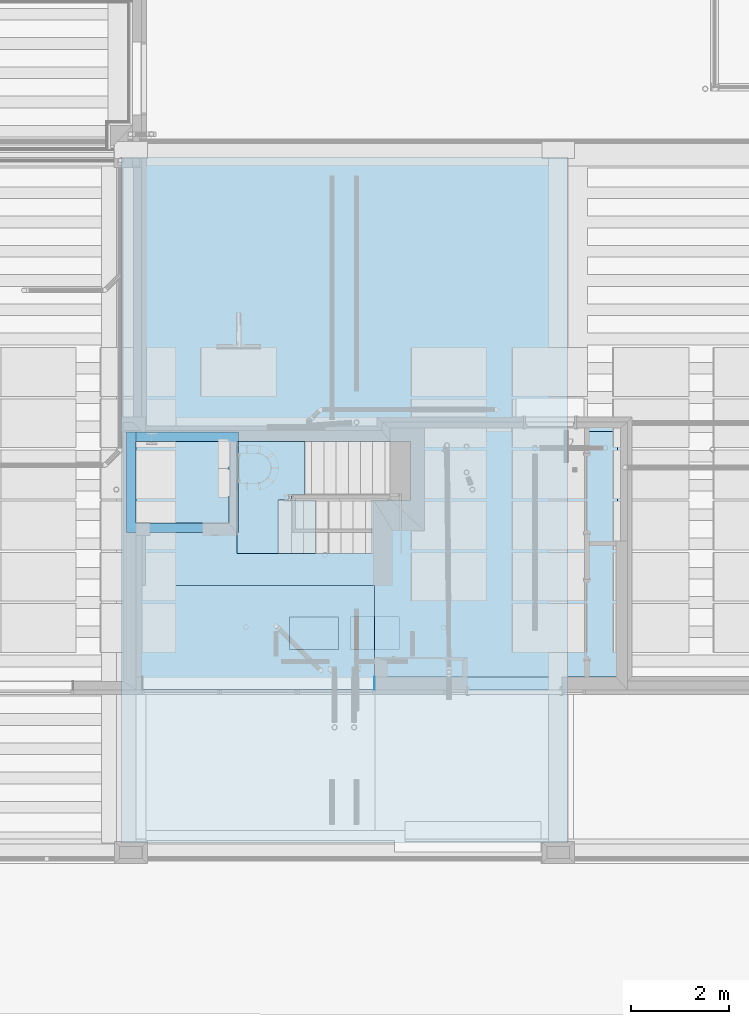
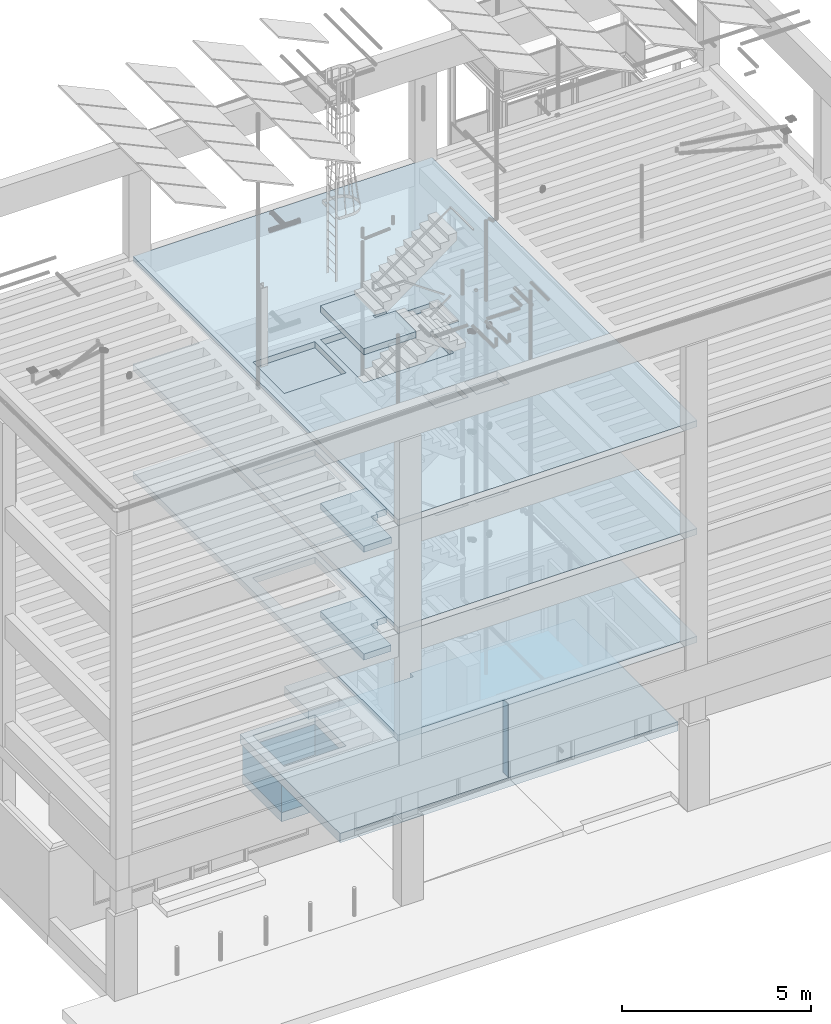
# One storey, part 18 of 108: 12 slabs.
"""IFC2X3 building model written with IfcOpenShell, lengths in metres."""

from ifc_helpers import new_model, entity, si_unit, converted_unit, derived_unit, money_unit, direction, frame, origin_with_axes, place, context, subcontext, project, spatial, faceted_brep, material, type_object, element, save


model = new_model("IFC2X3")

# Units and contexts
model_context = context("Model", 3, precision=1e-05, world=origin_with_axes(), true_north=direction((0.0, 1.0)))
body_context = subcontext(model_context, "Body", "Model", "MODEL_VIEW", scale=1.0)
ifc_project = project(units=[si_unit("LENGTHUNIT", "METRE"), si_unit("AREAUNIT", "SQUARE_METRE"), si_unit("VOLUMEUNIT", "CUBIC_METRE"), si_unit("ABSORBEDDOSEUNIT", "GRAY"), si_unit("AMOUNTOFSUBSTANCEUNIT", "MOLE"), si_unit("DOSEEQUIVALENTUNIT", "SIEVERT"), si_unit("ELECTRICCAPACITANCEUNIT", "FARAD"), si_unit("ELECTRICCHARGEUNIT", "COULOMB"), si_unit("ELECTRICCONDUCTANCEUNIT", "SIEMENS"), si_unit("ELECTRICCURRENTUNIT", "AMPERE"), si_unit("ELECTRICRESISTANCEUNIT", "OHM"), si_unit("ELECTRICVOLTAGEUNIT", "VOLT"), si_unit("ENERGYUNIT", "JOULE"), si_unit("FORCEUNIT", "NEWTON"), si_unit("FREQUENCYUNIT", "HERTZ"), si_unit("ILLUMINANCEUNIT", "LUX"), si_unit("INDUCTANCEUNIT", "HENRY"), si_unit("LUMINOUSFLUXUNIT", "LUMEN"), si_unit("LUMINOUSINTENSITYUNIT", "CANDELA"), si_unit("MAGNETICFLUXDENSITYUNIT", "TESLA"), si_unit("MAGNETICFLUXUNIT", "WEBER"), si_unit("MASSUNIT", "GRAM"), converted_unit("PLANEANGLEUNIT", "degree", entity("IfcReal", 0.0174532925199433), si_unit("PLANEANGLEUNIT", "RADIAN"), dimensions=[0, 0, 0, 0, 0, 0, 0]), si_unit("POWERUNIT", "WATT"), si_unit("PRESSUREUNIT", "PASCAL"), si_unit("RADIOACTIVITYUNIT", "BECQUEREL"), si_unit("SOLIDANGLEUNIT", "STERADIAN"), si_unit("THERMODYNAMICTEMPERATUREUNIT", "KELVIN"), si_unit("TIMEUNIT", "SECOND"), derived_unit("ACCELERATIONUNIT", [(si_unit("LENGTHUNIT", "METRE"), 1), (si_unit("TIMEUNIT", "SECOND"), -2)]), derived_unit("ANGULARVELOCITYUNIT", [(converted_unit("PLANEANGLEUNIT", "degree", entity("IfcReal", 0.0174532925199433), si_unit("PLANEANGLEUNIT", "RADIAN"), dimensions=[0, 0, 0, 0, 0, 0, 0]), 1), (si_unit("TIMEUNIT", "SECOND"), -1)]), derived_unit("CURVATUREUNIT", [(converted_unit("PLANEANGLEUNIT", "degree", entity("IfcReal", 0.0174532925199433), si_unit("PLANEANGLEUNIT", "RADIAN"), dimensions=[0, 0, 0, 0, 0, 0, 0]), 1), (si_unit("LENGTHUNIT", "METRE"), -1)]), derived_unit("DYNAMICVISCOSITYUNIT", [(si_unit("PRESSUREUNIT", "PASCAL"), 1), (si_unit("TIMEUNIT", "SECOND"), 1)]), derived_unit("HEATFLUXDENSITYUNIT", [(si_unit("POWERUNIT", "WATT"), 1), (si_unit("LENGTHUNIT", "METRE"), -2)]), derived_unit("HEATINGVALUEUNIT", [(si_unit("ENERGYUNIT", "JOULE"), 1), (si_unit("MASSUNIT", "GRAM"), -1)]), derived_unit("INTEGERCOUNTRATEUNIT", [(si_unit("TIMEUNIT", "SECOND"), -1)]), derived_unit("IONCONCENTRATIONUNIT", [(si_unit("MASSUNIT", "GRAM"), 1), (si_unit("VOLUMEUNIT", "CUBIC_METRE"), -1)]), derived_unit("ISOTHERMALMOISTURECAPACITYUNIT", [(si_unit("VOLUMEUNIT", "CUBIC_METRE"), 1), (si_unit("MASSUNIT", "GRAM"), -1)]), derived_unit("KINEMATICVISCOSITYUNIT", [(si_unit("AREAUNIT", "SQUARE_METRE"), 1), (si_unit("TIMEUNIT", "SECOND"), -1)]), derived_unit("LINEARFORCEUNIT", [(si_unit("FORCEUNIT", "NEWTON"), 1), (si_unit("LENGTHUNIT", "METRE"), -1)]), derived_unit("LINEARMOMENTUNIT", [(si_unit("FORCEUNIT", "NEWTON"), 1), (si_unit("LENGTHUNIT", "METRE"), -1)]), derived_unit("LINEARSTIFFNESSUNIT", [(si_unit("FORCEUNIT", "NEWTON"), 1), (si_unit("LENGTHUNIT", "METRE"), -1)]), derived_unit("LINEARVELOCITYUNIT", [(si_unit("LENGTHUNIT", "METRE"), 1), (si_unit("TIMEUNIT", "SECOND"), -1)]), derived_unit("LUMINOUSINTENSITYDISTRIBUTIONUNIT", [(si_unit("LUMINOUSINTENSITYUNIT", "CANDELA"), 1), (si_unit("LUMINOUSFLUXUNIT", "LUMEN"), -1)]), derived_unit("MASSDENSITYUNIT", [(si_unit("MASSUNIT", "GRAM"), 1), (si_unit("VOLUMEUNIT", "CUBIC_METRE"), -1)]), derived_unit("MASSFLOWRATEUNIT", [(si_unit("MASSUNIT", "GRAM"), 1), (si_unit("TIMEUNIT", "SECOND"), -1)]), derived_unit("MASSPERLENGTHUNIT", [(si_unit("MASSUNIT", "GRAM"), 1), (si_unit("LENGTHUNIT", "METRE"), -1)]), derived_unit("MODULUSOFELASTICITYUNIT", [(si_unit("FORCEUNIT", "NEWTON"), 1), (si_unit("AREAUNIT", "SQUARE_METRE"), -1)]), derived_unit("MODULUSOFLINEARSUBGRADEREACTIONUNIT", [(si_unit("FORCEUNIT", "NEWTON"), 1), (si_unit("LENGTHUNIT", "METRE"), -2)]), derived_unit("MODULUSOFROTATIONALSUBGRADEREACTIONUNIT", [(si_unit("FORCEUNIT", "NEWTON"), 1), (si_unit("LENGTHUNIT", "METRE"), 1)]), derived_unit("MODULUSOFSUBGRADEREACTIONUNIT", [(si_unit("FORCEUNIT", "NEWTON"), 1), (si_unit("VOLUMEUNIT", "CUBIC_METRE"), -1)]), derived_unit("MOISTUREDIFFUSIVITYUNIT", [(si_unit("VOLUMEUNIT", "CUBIC_METRE"), 1), (si_unit("TIMEUNIT", "SECOND"), -1)]), derived_unit("MOLECULARWEIGHTUNIT", [(si_unit("MASSUNIT", "GRAM"), 1), (si_unit("AMOUNTOFSUBSTANCEUNIT", "MOLE"), -1)]), derived_unit("PLANARFORCEUNIT", [(si_unit("FORCEUNIT", "NEWTON"), 1), (si_unit("LENGTHUNIT", "METRE"), -2)]), derived_unit("ROTATIONALFREQUENCYUNIT", [(si_unit("TIMEUNIT", "SECOND"), -1)]), derived_unit("ROTATIONALMASSUNIT", [(si_unit("MASSUNIT", "GRAM"), 1), (si_unit("LENGTHUNIT", "METRE"), 2)]), derived_unit("ROTATIONALSTIFFNESSUNIT", [(si_unit("FORCEUNIT", "NEWTON"), 1), (si_unit("LENGTHUNIT", "METRE"), 1), (converted_unit("PLANEANGLEUNIT", "degree", entity("IfcReal", 0.0174532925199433), si_unit("PLANEANGLEUNIT", "RADIAN"), dimensions=[0, 0, 0, 0, 0, 0, 0]), -1)]), derived_unit("SECTIONAREAINTEGRALUNIT", [(si_unit("LENGTHUNIT", "METRE"), 5)]), derived_unit("SECTIONMODULUSUNIT", [(si_unit("LENGTHUNIT", "METRE"), 3)]), derived_unit("SHEARMODULUSUNIT", [(si_unit("FORCEUNIT", "NEWTON"), 1), (si_unit("AREAUNIT", "SQUARE_METRE"), -1)]), derived_unit("SOUNDPOWERUNIT", [(si_unit("ENERGYUNIT", "JOULE"), 1), (si_unit("TIMEUNIT", "SECOND"), -1)]), derived_unit("SPECIFICHEATCAPACITYUNIT", [(si_unit("FORCEUNIT", "NEWTON"), 1), (si_unit("MASSUNIT", "GRAM"), -1), (si_unit("THERMODYNAMICTEMPERATUREUNIT", "KELVIN"), -1)]), derived_unit("TEMPERATUREGRADIENTUNIT", [(si_unit("THERMODYNAMICTEMPERATUREUNIT", "KELVIN"), 1), (si_unit("LENGTHUNIT", "METRE"), -1)]), derived_unit("THERMALADMITTANCEUNIT", [(si_unit("POWERUNIT", "WATT"), 1), (si_unit("AREAUNIT", "SQUARE_METRE"), -1), (si_unit("THERMODYNAMICTEMPERATUREUNIT", "KELVIN"), -1)]), derived_unit("THERMALCONDUCTANCEUNIT", [(si_unit("POWERUNIT", "WATT"), 1), (si_unit("LENGTHUNIT", "METRE"), -1), (si_unit("THERMODYNAMICTEMPERATUREUNIT", "KELVIN"), -1)]), derived_unit("THERMALEXPANSIONCOEFFICIENTUNIT", [(si_unit("THERMODYNAMICTEMPERATUREUNIT", "KELVIN"), -1)]), derived_unit("THERMALRESISTANCEUNIT", [(si_unit("AREAUNIT", "SQUARE_METRE"), 1), (si_unit("POWERUNIT", "WATT"), -1)]), derived_unit("THERMALTRANSMITTANCEUNIT", [(si_unit("POWERUNIT", "WATT"), 1), (si_unit("AREAUNIT", "SQUARE_METRE"), -1), (si_unit("THERMODYNAMICTEMPERATUREUNIT", "KELVIN"), -1)]), derived_unit("TORQUEUNIT", [(si_unit("FORCEUNIT", "NEWTON"), 1), (si_unit("LENGTHUNIT", "METRE"), 1)]), derived_unit("VAPORPERMEABILITYUNIT", [(si_unit("MASSUNIT", "GRAM"), 1), (si_unit("TIMEUNIT", "SECOND"), -1)]), derived_unit("VOLUMETRICFLOWRATEUNIT", [(si_unit("VOLUMEUNIT", "CUBIC_METRE"), 1), (si_unit("TIMEUNIT", "SECOND"), -1)]), derived_unit("WARPINGCONSTANTUNIT", [(si_unit("LENGTHUNIT", "METRE"), 6)]), derived_unit("WARPINGMOMENTUNIT", [(si_unit("FORCEUNIT", "NEWTON"), 1), (si_unit("LENGTHUNIT", "METRE"), 2)]), money_unit("GBP")], contexts=[model_context])

# Site, building, storey
site_placement = place(None, origin_with_axes())
site = spatial("IfcSite", under=ifc_project, at=site_placement, Name="Site", CompositionType="ELEMENT")
building_placement = place(site_placement, origin_with_axes())
building = spatial("IfcBuilding", under=site, at=building_placement, Name="Building01", CompositionType="ELEMENT")
storey_placement = place(building_placement, origin_with_axes())
storey = spatial("IfcBuildingStorey", under=building, at=storey_placement, Name="GF", CompositionType="ELEMENT", Elevation=0.0)

# Slabs
ifc_material = material(Name="A_BSUK_Slabs")
slab_type = type_object("IfcSlabType", Name="A-FloorsSlabs A_BSUK_Slabs", PredefinedType="FLOOR")
placement = place(storey_placement, origin_with_axes())
element("IfcSlab", 1, at=placement, inside=storey, type_object=slab_type, material=ifc_material, Name="A-FloorsSlabs A_BSUK_Slabs", ObjectType="CompoundSlabLeaf", context=body_context, shape_type="Brep", body=[
    faceted_brep([(14.124099, 3.559352, 0.015), (14.109099, 3.559352, 0.015), (14.109099, 3.823962, 0.015), (14.124099, 3.823962, 0.015), (14.124099, 3.559262, 2.385), (14.109099, 3.559262, 2.385), (14.124099, 3.823838, 2.385), (14.109099, 3.823838, 2.385)], [[[0, 1, 2, 3]], [[4, 5, 1, 0]], [[6, 7, 5, 4]], [[3, 2, 7, 6]], [[1, 5, 7, 2]], [[3, 6, 4, 0]]]),
])
element("IfcSlab", 2, at=placement, inside=storey, type_object=slab_type, material=ifc_material, Name="A-FloorsSlabs A_BSUK_Slabs", ObjectType="CompoundSlabLeaf", context=body_context, shape_type="Brep", body=[
    faceted_brep([(8.965099, 8.87141, 0.0), (8.965099, 3.559165, 0.0), (19.302967, 3.559165, 0.0), (19.302967, 9.053145, 0.0), (14.27235, 9.053145, 0.0), (14.27235, 8.87141, 0.0), (9.229999, 8.64741, 0.0), (11.129999, 8.64741, 0.0), (11.129999, 6.989761, 0.0), (9.229999, 6.989761, 0.0), (14.27235, 8.87141, -0.3), (14.27235, 9.053145, -0.3), (19.302967, 9.053145, -0.3), (19.302967, 3.559165, -0.3), (8.965099, 3.559165, -0.3), (8.965099, 8.87141, -0.3), (9.229999, 8.64741, -0.3), (9.229999, 6.989761, -0.3), (11.129999, 6.989761, -0.3), (11.129999, 8.64741, -0.3)], [[[0, 1, 2, 3, 4, 5], [6, 7, 8, 9]], [[10, 11, 12, 13, 14, 15], [16, 17, 18, 19]], [[15, 0, 5, 10]], [[14, 1, 0, 15]], [[13, 2, 1, 14]], [[12, 3, 2, 13]], [[11, 4, 3, 12]], [[10, 5, 4, 11]], [[16, 19, 7, 6]], [[17, 16, 6, 9]], [[18, 17, 9, 8]], [[19, 18, 8, 7]]]),
])
element("IfcSlab", 3, at=placement, inside=storey, type_object=slab_type, material=ifc_material, Name="A-FloorsSlabs A_BSUK_Slabs", ObjectType="CompoundSlabLeaf", context=body_context, shape_type="Brep", body=[
    faceted_brep([(9.23, 8.64741, -1.3), (9.23, 8.64741, -0.3), (9.23, 8.84741, -0.3), (9.23, 8.84741, -1.3), (11.13, 8.64741, -1.3), (11.13, 8.64741, -0.3), (11.13, 6.98, -1.3), (11.13, 6.98, -0.3), (11.33, 6.98, -1.3), (11.33, 6.98, -0.3), (11.33, 8.84741, -1.3), (11.33, 8.84741, -0.3), (11.13, 8.84741, -1.3), (11.13, 8.84741, -0.3)], [[[0, 1, 2, 3]], [[4, 5, 1, 0]], [[6, 7, 5, 4]], [[8, 9, 7, 6]], [[10, 11, 9, 8]], [[12, 13, 11, 10]], [[3, 2, 13, 12]], [[1, 5, 7, 9, 11, 13, 2]], [[3, 12, 10, 8, 6, 4, 0]]]),
])
element("IfcSlab", 4, at=placement, inside=storey, type_object=slab_type, material=ifc_material, Name="A-FloorsSlabs A_BSUK_Slabs", ObjectType="CompoundSlabLeaf", context=body_context, shape_type="Brep", body=[
    faceted_brep([(11.33, 6.98, -1.3), (11.33, 6.98, -0.3), (11.33, 6.78, -0.3), (11.33, 6.78, -1.3), (9.23, 6.98, -1.3), (9.23, 6.98, -0.3), (9.23, 8.84741, -1.3), (9.23, 8.84741, -0.3), (9.03, 8.84741, -1.3), (9.03, 8.84741, -0.3), (9.03, 6.78, -1.3), (9.03, 6.78, -0.3), (9.23, 6.78, -1.3), (9.23, 6.78, -0.3)], [[[0, 1, 2, 3]], [[4, 5, 1, 0]], [[6, 7, 5, 4]], [[8, 9, 7, 6]], [[10, 11, 9, 8]], [[12, 13, 11, 10]], [[3, 2, 13, 12]], [[1, 5, 7, 9, 11, 13, 2]], [[3, 12, 10, 8, 6, 4, 0]]]),
])
element("IfcSlab", 5, at=placement, inside=storey, type_object=slab_type, material=ifc_material, Name="A-FloorsSlabs A_BSUK_Slabs", ObjectType="CompoundSlabLeaf", context=body_context, shape_type="Brep", body=[
    faceted_brep([(9.03, 8.84741, -1.6), (9.03, 8.84741, -1.3), (11.33, 8.84741, -1.3), (11.33, 8.84741, -1.6), (9.03, 6.78, -1.6), (9.03, 6.78, -1.3), (11.33, 6.78, -1.6), (11.33, 6.78, -1.3)], [[[0, 1, 2, 3]], [[4, 5, 1, 0]], [[6, 7, 5, 4]], [[3, 2, 7, 6]], [[1, 5, 7, 2]], [[3, 6, 4, 0]]]),
])
element("IfcSlab", 6, at=placement, inside=storey, type_object=slab_type, material=ifc_material, Name="A-FloorsSlabs A_BSUK_Slabs", ObjectType="CompoundSlabLeaf", context=body_context, shape_type="Brep", body=[
    faceted_brep([(14.535, 8.65, 2.3), (14.535, 8.65, 2.6), (14.535, 8.852854, 2.6), (14.535, 8.852854, 2.3), (14.8, 8.65, 2.3), (14.8, 8.65, 2.6), (14.8, 7.55, 2.3), (14.8, 7.55, 2.6), (12.4238, 7.55, 2.3), (12.4238, 7.55, 2.6), (12.42395, 6.35, 2.3), (12.42395, 6.35, 2.6), (11.3, 6.35, 2.3), (11.3, 6.35, 2.6), (11.3, 6.98, 2.3), (11.3, 6.98, 2.6), (9.23, 6.98, 2.3), (9.23, 6.98, 2.6), (9.23, 5.69305, 2.3), (9.23, 5.69305, 2.6), (14.121434, 5.69305, 2.3), (14.121434, 5.69305, 2.6), (14.121434, 3.823962, 2.3), (14.121434, 3.823962, 2.6), (19.102776, 3.823962, 2.3), (19.102776, 3.823962, 2.6), (19.102776, 6.610938, 2.3), (19.102776, 6.610938, 2.6), (19.102776, 8.852854, 2.3), (19.102776, 8.852854, 2.6)], [[[0, 1, 2, 3]], [[4, 5, 1, 0]], [[6, 7, 5, 4]], [[8, 9, 7, 6]], [[10, 11, 9, 8]], [[12, 13, 11, 10]], [[14, 15, 13, 12]], [[16, 17, 15, 14]], [[18, 19, 17, 16]], [[20, 21, 19, 18]], [[22, 23, 21, 20]], [[24, 25, 23, 22]], [[26, 27, 25, 24]], [[28, 29, 27, 26]], [[3, 2, 29, 28]], [[1, 5, 7, 9, 11, 13, 15, 17, 19, 21, 23, 25, 27, 29, 2]], [[3, 28, 26, 24, 22, 20, 18, 16, 14, 12, 10, 8, 6, 4, 0]]]),
])
element("IfcSlab", 7, at=placement, inside=storey, type_object=slab_type, material=ifc_material, Name="A-FloorsSlabs A_BSUK_Slabs", ObjectType="CompoundSlabLeaf", context=body_context, shape_type="Brep", body=[
    faceted_brep([(8.925, 14.48, 8.59), (8.925, 0.42, 8.59), (18.085, 0.42, 8.59), (18.085, 14.48, 8.59), (13.375, 5.05385, 8.59), (13.375, 4.389428, 8.59), (12.375, 4.389428, 8.59), (12.375, 5.05385, 8.59), (14.059316, 6.35, 8.59), (11.3, 6.35, 8.59), (11.3, 8.65, 8.59), (14.859584, 8.65, 8.59), (14.859584, 7.454282, 8.59), (14.059316, 7.454282, 8.59), (14.625, 5.05385, 8.59), (14.625, 4.389428, 8.59), (13.625, 4.389428, 8.59), (13.625, 5.05385, 8.59), (11.13, 8.65, 8.59), (11.13, 6.98, 8.59), (9.23, 6.98, 8.59), (9.23, 8.65, 8.59), (18.085, 14.48, 8.39), (18.085, 0.42, 8.39), (8.925, 0.42, 8.39), (8.925, 14.48, 8.39), (14.625, 5.05385, 8.39), (13.625, 5.05385, 8.39), (13.625, 4.389428, 8.39), (14.625, 4.389428, 8.39), (13.375, 5.05385, 8.39), (12.375, 5.05385, 8.39), (12.375, 4.389428, 8.39), (13.375, 4.389428, 8.39), (14.059316, 6.35, 8.39), (14.059316, 7.454282, 8.39), (14.859584, 7.454282, 8.39), (14.859584, 8.65, 8.39), (11.3, 8.65, 8.39), (11.3, 6.35, 8.39), (11.13, 8.65, 8.39), (9.23, 8.65, 8.39), (9.23, 6.98, 8.39), (11.13, 6.98, 8.39)], [[[0, 1, 2, 3], [4, 5, 6, 7], [8, 9, 10, 11, 12, 13], [14, 15, 16, 17], [18, 19, 20, 21]], [[22, 23, 24, 25], [26, 27, 28, 29], [30, 31, 32, 33], [34, 35, 36, 37, 38, 39], [40, 41, 42, 43]], [[35, 13, 12, 36]], [[25, 0, 3, 22]], [[24, 1, 0, 25]], [[23, 2, 1, 24]], [[22, 3, 2, 23]], [[17, 27, 26, 14]], [[14, 26, 29, 15]], [[15, 29, 28, 16]], [[16, 28, 27, 17]], [[7, 31, 30, 4]], [[4, 30, 33, 5]], [[5, 33, 32, 6]], [[6, 32, 31, 7]], [[10, 38, 37, 11]], [[11, 37, 36, 12]], [[9, 39, 38, 10]], [[8, 34, 39, 9]], [[13, 35, 34, 8]], [[21, 41, 40, 18]], [[18, 40, 43, 19]], [[19, 43, 42, 20]], [[20, 42, 41, 21]]]),
])
element("IfcSlab", 8, at=placement, inside=storey, type_object=slab_type, material=ifc_material, Name="A-FloorsSlabs A_BSUK_Slabs", ObjectType="CompoundSlabLeaf", context=body_context, shape_type="Brep", body=[
    faceted_brep([(8.925, 14.48, 12.08), (8.925, 0.42, 12.08), (18.085, 0.42, 12.08), (18.085, 14.48, 12.08), (13.375, 5.05385, 12.08), (13.375, 4.389428, 12.08), (12.375, 4.389428, 12.08), (12.375, 5.05385, 12.08), (14.059317, 6.35, 12.08), (11.3, 6.35, 12.08), (11.3, 8.65, 12.08), (14.897097, 8.65, 12.08), (14.897097, 7.55, 12.08), (14.059317, 7.55, 12.08), (14.625, 5.05385, 12.08), (14.625, 4.389428, 12.08), (13.625, 4.389428, 12.08), (13.625, 5.05385, 12.08), (11.13, 8.65, 12.08), (11.13, 6.98, 12.08), (9.23, 6.98, 12.08), (9.23, 8.65, 12.08), (18.085, 14.48, 11.88), (18.085, 0.42, 11.88), (8.925, 0.42, 11.88), (8.925, 14.48, 11.88), (14.625, 5.05385, 11.88), (13.625, 5.05385, 11.88), (13.625, 4.389428, 11.88), (14.625, 4.389428, 11.88), (13.375, 5.05385, 11.88), (12.375, 5.05385, 11.88), (12.375, 4.389428, 11.88), (13.375, 4.389428, 11.88), (14.059317, 6.35, 11.88), (14.059317, 7.55, 11.88), (14.897097, 7.55, 11.88), (14.897097, 8.65, 11.88), (11.3, 8.65, 11.88), (11.3, 6.35, 11.88), (11.13, 8.65, 11.88), (9.23, 8.65, 11.88), (9.23, 6.98, 11.88), (11.13, 6.98, 11.88)], [[[0, 1, 2, 3], [4, 5, 6, 7], [8, 9, 10, 11, 12, 13], [14, 15, 16, 17], [18, 19, 20, 21]], [[22, 23, 24, 25], [26, 27, 28, 29], [30, 31, 32, 33], [34, 35, 36, 37, 38, 39], [40, 41, 42, 43]], [[35, 13, 12, 36]], [[25, 0, 3, 22]], [[24, 1, 0, 25]], [[23, 2, 1, 24]], [[22, 3, 2, 23]], [[17, 27, 26, 14]], [[14, 26, 29, 15]], [[15, 29, 28, 16]], [[16, 28, 27, 17]], [[7, 31, 30, 4]], [[4, 30, 33, 5]], [[5, 33, 32, 6]], [[6, 32, 31, 7]], [[10, 38, 37, 11]], [[11, 37, 36, 12]], [[9, 39, 38, 10]], [[8, 34, 39, 9]], [[13, 35, 34, 8]], [[21, 41, 40, 18]], [[18, 40, 43, 19]], [[19, 43, 42, 20]], [[20, 42, 41, 21]]]),
])
element("IfcSlab", 9, at=placement, inside=storey, type_object=slab_type, material=ifc_material, Name="A-FloorsSlabs A_BSUK_Slabs", ObjectType="CompoundSlabLeaf", context=body_context, shape_type="Brep", body=[
    faceted_brep([(8.925, 14.48, 5.1), (8.925, 0.42, 5.1), (18.085, 0.42, 5.1), (18.085, 14.48, 5.1), (14.625, 5.05385, 5.1), (14.625, 4.389428, 5.1), (13.625, 4.389428, 5.1), (13.625, 5.05385, 5.1), (14.059317, 6.35, 5.1), (11.3, 6.35, 5.1), (11.3, 8.65, 5.1), (14.859584, 8.65, 5.1), (14.859584, 7.454191, 5.1), (14.059317, 7.454191, 5.1), (11.13, 8.65, 5.1), (11.13, 6.98, 5.1), (9.23, 6.98, 5.1), (9.23, 8.65, 5.1), (18.085, 14.48, 4.9), (18.085, 0.42, 4.9), (8.925, 0.42, 4.9), (8.925, 14.48, 4.9), (14.625, 5.05385, 4.9), (13.625, 5.05385, 4.9), (13.625, 4.389428, 4.9), (14.625, 4.389428, 4.9), (14.059317, 6.35, 4.9), (14.059317, 7.454191, 4.9), (14.859584, 7.454191, 4.9), (14.859584, 8.65, 4.9), (11.3, 8.65, 4.9), (11.3, 6.35, 4.9), (11.13, 8.65, 4.9), (9.23, 8.65, 4.9), (9.23, 6.98, 4.9), (11.13, 6.98, 4.9)], [[[0, 1, 2, 3], [4, 5, 6, 7], [8, 9, 10, 11, 12, 13], [14, 15, 16, 17]], [[18, 19, 20, 21], [22, 23, 24, 25], [26, 27, 28, 29, 30, 31], [32, 33, 34, 35]], [[27, 13, 12, 28]], [[21, 0, 3, 18]], [[20, 1, 0, 21]], [[19, 2, 1, 20]], [[18, 3, 2, 19]], [[7, 23, 22, 4]], [[4, 22, 25, 5]], [[5, 25, 24, 6]], [[6, 24, 23, 7]], [[10, 30, 29, 11]], [[11, 29, 28, 12]], [[9, 31, 30, 10]], [[8, 26, 31, 9]], [[13, 27, 26, 8]], [[17, 33, 32, 14]], [[14, 32, 35, 15]], [[15, 35, 34, 16]], [[16, 34, 33, 17]]]),
])
slab_10_placement = place(storey_placement, frame((11.3, 8.65, 3.1), z_axis=(0.0, 0.0, 1.0), x_axis=(1.0, 0.0, 0.0)))
element("IfcSlab", 10, at=slab_10_placement, inside=storey, type_object=slab_type, material=ifc_material, Name="A-FloorsSlabs A_BSUK_Slabs", ObjectType="A-FloorsSlabs A_BSUK_Slabs", context=body_context, shape_type="Brep", body=[
    faceted_brep([(0.0, 0.0, 0.0), (0.0, 0.0, 0.2), (1.395807, 0.0, 0.2), (1.395807, 0.0, 0.0), (0.0, -2.3, 0.0), (0.0, -2.3, 0.2), (0.841481, -2.3, 0.0), (0.841481, -2.3, 0.2), (0.841481, -1.2, 0.0), (0.841481, -1.2, 0.2), (1.059584, -1.2, 0.0), (1.059584, -1.2, 0.2), (1.059584, -1.1, 0.0), (1.059584, -1.1, 0.2), (1.395807, -1.1, 0.0), (1.395807, -1.1, 0.2)], [[[0, 1, 2, 3]], [[4, 5, 1, 0]], [[6, 7, 5, 4]], [[8, 9, 7, 6]], [[10, 11, 9, 8]], [[12, 13, 11, 10]], [[14, 15, 13, 12]], [[3, 2, 15, 14]], [[1, 5, 7, 9, 11, 13, 15, 2]], [[3, 14, 12, 10, 8, 6, 4, 0]]]),
])
element("IfcSlab", 11, at=placement, inside=storey, type_object=slab_type, material=ifc_material, Name="A-FloorsSlabs A_BSUK_Slabs", ObjectType="CompoundSlabLeaf", context=body_context, shape_type="Brep", body=[
    faceted_brep([(11.3, 6.35, 12.98), (11.3, 6.35, 13.18), (11.3, 8.65, 13.18), (11.3, 8.65, 12.98), (12.905859, 6.35, 12.98), (12.905859, 6.35, 13.18), (12.905859, 7.450763, 12.98), (12.905859, 7.450763, 13.18), (12.2808, 7.450763, 12.98), (12.2808, 7.450763, 13.18), (12.2808, 7.55, 12.98), (12.2808, 7.55, 13.18), (12.691223, 7.550019, 12.98), (12.691223, 7.550019, 13.18), (12.691223, 8.65, 12.98), (12.691223, 8.65, 13.18)], [[[0, 1, 2, 3]], [[4, 5, 1, 0]], [[6, 7, 5, 4]], [[8, 9, 7, 6]], [[10, 11, 9, 8]], [[12, 13, 11, 10]], [[14, 15, 13, 12]], [[3, 2, 15, 14]], [[1, 5, 7, 9, 11, 13, 15, 2]], [[3, 14, 12, 10, 8, 6, 4, 0]]]),
])
element("IfcSlab", 12, at=placement, inside=storey, type_object=slab_type, material=ifc_material, Name="A-FloorsSlabs A_BSUK_Slabs", ObjectType="CompoundSlabLeaf", context=body_context, shape_type="Brep", body=[
    faceted_brep([(11.3, 8.65, 6.59), (11.3, 8.65, 6.79), (12.695807, 8.65, 6.79), (12.695807, 8.65, 6.59), (11.3, 6.35, 6.59), (11.3, 6.35, 6.79), (12.147098, 6.35, 6.59), (12.147098, 6.35, 6.79), (12.147665, 7.45, 6.59), (12.147665, 7.45, 6.79), (12.359584, 7.45, 6.59), (12.359584, 7.45, 6.79), (12.359584, 7.55, 6.59), (12.359584, 7.55, 6.79), (12.695807, 7.55, 6.59), (12.695807, 7.55, 6.79)], [[[0, 1, 2, 3]], [[4, 5, 1, 0]], [[6, 7, 5, 4]], [[8, 9, 7, 6]], [[10, 11, 9, 8]], [[12, 13, 11, 10]], [[14, 15, 13, 12]], [[3, 2, 15, 14]], [[1, 5, 7, 9, 11, 13, 15, 2]], [[3, 14, 12, 10, 8, 6, 4, 0]]]),
])

save(model, "model.ifc")
